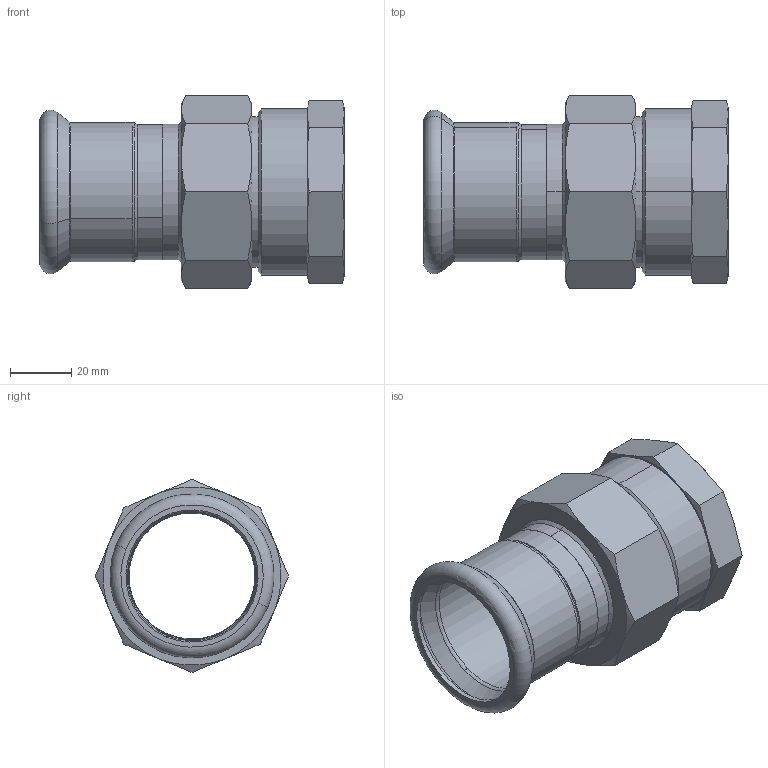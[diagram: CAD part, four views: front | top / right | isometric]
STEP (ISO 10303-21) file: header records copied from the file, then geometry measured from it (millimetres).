
FILE_DESCRIPTION (( 'STEP AP203' ), '1' );
FILE_NAME ('GDA5459.STEP', '2019-01-17T07:42:06', ( '' ), ( '' ), 'SwSTEP 2.0', 'SolidWorks 2015', '' );
FILE_SCHEMA (( 'CONFIG_CONTROL_DESIGN' ));
Length unit declared in the file: millimetre
Products named in the file (6): 囀俋佪蛌遙諉芛1.75-1.5; GDA5459; T-ｉ-01-42; ZL-¢ñ-01¡Á1__2; 42｡ﾁ1_; 1__2
Assembly tree (5 placements, depth 2):
  GDA5459
    42｡ﾁ1_
    T-ｉ-01-42
    ZL-¢ñ-01¡Á1__2
    囀俋佪蛌遙諉芛1.75-1.5
    1__2
Bounding box: 99 x 62.78 x 62.78 mm (x, y, z)
Volume: 71178 mm3; surface area: 46047.2 mm2
Topology: 5 solids, 5 shells, 143 faces, 320 edges, 194 vertices
Faces by surface type: cone 58, cylinder 36, plane 33, torus 16
Entity records: 5008 total; most frequent: CARTESIAN_POINT 1164, DIRECTION 734, ORIENTED_EDGE 640, AXIS2_PLACEMENT_3D 328, EDGE_CURVE 320, VERTEX_POINT 194, CIRCLE 177, EDGE_LOOP 160
